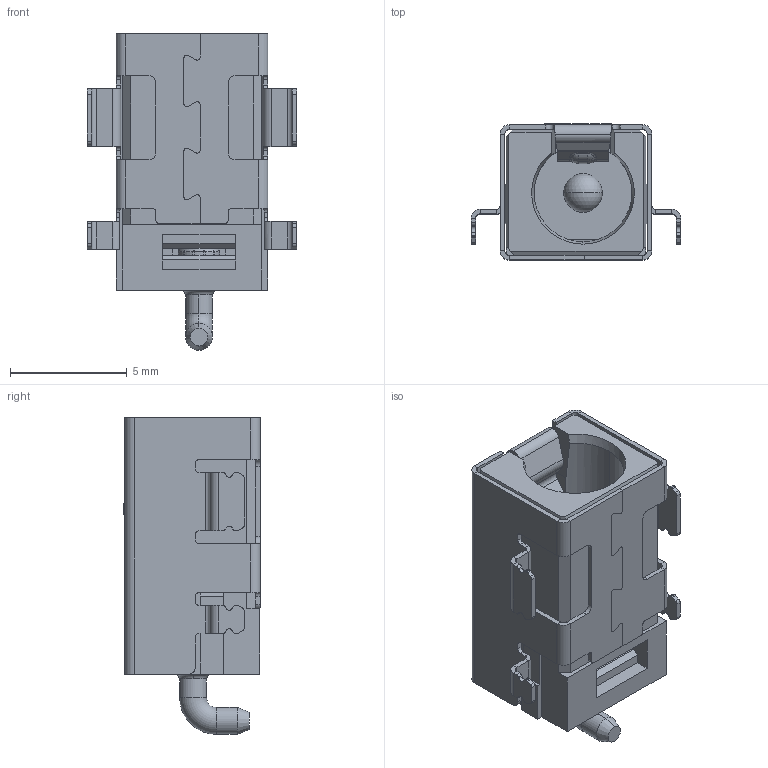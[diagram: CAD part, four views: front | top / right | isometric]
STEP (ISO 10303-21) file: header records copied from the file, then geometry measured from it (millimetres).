
FILE_DESCRIPTION (( 'STEP AP203' ), '1' );
FILE_NAME ('DC-S005B-D0165-8A.stp', '2023-07-14T09:36:40', ( '' ), ( '' ), 'SwSTEP 2.0', 'SolidWorks 2023', '' );
FILE_SCHEMA (( 'CONFIG_CONTROL_DESIGN' ));
Length unit declared in the file: millimetre
Products named in the file (1): DC-S005B-D0165-8A
Bounding box: 9 x 5.85 x 13.57 mm (x, y, z)
Volume: 276.1 mm3; surface area: 904.2 mm2
Topology: 1 solids, 2 shells, 847 faces, 2295 edges, 1457 vertices
Faces by surface type: plane 509, cylinder 218, bspline 80, torus 16, cone 14, sphere 10
Entity records: 30427 total; most frequent: CARTESIAN_POINT 9391, ORIENTED_EDGE 4582, DIRECTION 4050, EDGE_CURVE 2291, LINE 1618, VECTOR 1618, VERTEX_POINT 1455, AXIS2_PLACEMENT_3D 1216
